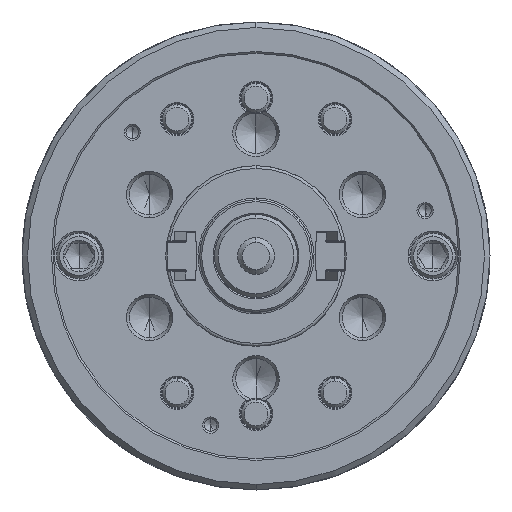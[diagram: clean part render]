
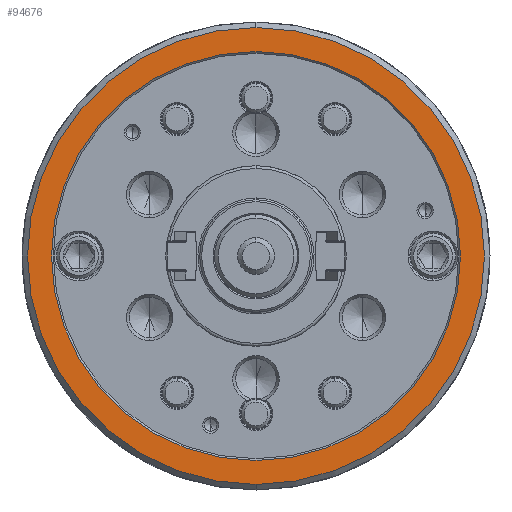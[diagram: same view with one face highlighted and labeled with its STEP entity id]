
A CAD part, left-side view. The second image highlights one B-rep face of the part: STEP entity #94676.
In plain terms, the highlighted planar face has unit normal (-1, 0, 0).
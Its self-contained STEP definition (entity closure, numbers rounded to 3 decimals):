
#10228 = CARTESIAN_POINT ( 'NONE',  ( -89., 0., -124. ) ) ;
#11208 = DIRECTION ( 'NONE',  ( 0., 0., -1. ) ) ;
#11580 = CIRCLE ( 'NONE', #32807, 111. ) ;
#12597 = CARTESIAN_POINT ( 'NONE',  ( -89., 0., 111. ) ) ;
#13041 = AXIS2_PLACEMENT_3D ( 'NONE', #25255, #72240, #25769 ) ;
#14705 = DIRECTION ( 'NONE',  ( 1., 0., 0. ) ) ;
#15111 = VERTEX_POINT ( 'NONE', #10228 ) ;
#18348 = EDGE_LOOP ( 'NONE', ( #23250, #66556 ) ) ;
#19824 = DIRECTION ( 'NONE',  ( 1., 0., 0. ) ) ;
#19886 = AXIS2_PLACEMENT_3D ( 'NONE', #95731, #96729, #73745 ) ;
#20487 = EDGE_LOOP ( 'NONE', ( #87130, #53462 ) ) ;
#23085 = DIRECTION ( 'NONE',  ( 1., 0., 0. ) ) ;
#23250 = ORIENTED_EDGE ( 'NONE', *, *, #75334, .F. ) ;
#25255 = CARTESIAN_POINT ( 'NONE',  ( -89., 0., 0. ) ) ;
#25769 = DIRECTION ( 'NONE',  ( 0., 0., -1. ) ) ;
#32807 = AXIS2_PLACEMENT_3D ( 'NONE', #78276, #23085, #85360 ) ;
#33426 = PLANE ( 'NONE',  #19886 ) ;
#41734 = EDGE_CURVE ( 'NONE', #90931, #43198, #90593, .T. ) ;
#43198 = VERTEX_POINT ( 'NONE', #12597 ) ;
#45885 = DIRECTION ( 'NONE',  ( 0., 0., -1. ) ) ;
#45924 = EDGE_CURVE ( 'NONE', #74325, #15111, #86455, .T. ) ;
#47824 = CARTESIAN_POINT ( 'NONE',  ( -89., 0., 124. ) ) ;
#50242 = FACE_BOUND ( 'NONE', #20487, .T. ) ;
#53462 = ORIENTED_EDGE ( 'NONE', *, *, #41734, .T. ) ;
#65586 = FACE_OUTER_BOUND ( 'NONE', #18348, .T. ) ;
#66556 = ORIENTED_EDGE ( 'NONE', *, *, #45924, .F. ) ;
#72240 = DIRECTION ( 'NONE',  ( 1., 0., 0. ) ) ;
#72627 = CARTESIAN_POINT ( 'NONE',  ( -89., 0., -111. ) ) ;
#73745 = DIRECTION ( 'NONE',  ( 0., 0., -1. ) ) ;
#74325 = VERTEX_POINT ( 'NONE', #47824 ) ;
#75334 = EDGE_CURVE ( 'NONE', #15111, #74325, #81023, .T. ) ;
#78276 = CARTESIAN_POINT ( 'NONE',  ( -89., 0., 0. ) ) ;
#81023 = CIRCLE ( 'NONE', #100599, 124. ) ;
#81185 = CARTESIAN_POINT ( 'NONE',  ( -89., 0., 0. ) ) ;
#83677 = CARTESIAN_POINT ( 'NONE',  ( -89., 0., 0. ) ) ;
#84086 = AXIS2_PLACEMENT_3D ( 'NONE', #83677, #14705, #45885 ) ;
#84723 = EDGE_CURVE ( 'NONE', #43198, #90931, #11580, .T. ) ;
#85360 = DIRECTION ( 'NONE',  ( 0., 0., -1. ) ) ;
#86455 = CIRCLE ( 'NONE', #13041, 124. ) ;
#87130 = ORIENTED_EDGE ( 'NONE', *, *, #84723, .T. ) ;
#90593 = CIRCLE ( 'NONE', #84086, 111. ) ;
#90931 = VERTEX_POINT ( 'NONE', #72627 ) ;
#94676 = ADVANCED_FACE ( 'NONE', ( #65586, #50242 ), #33426, .F. ) ;
#95731 = CARTESIAN_POINT ( 'NONE',  ( -89., -124., 0. ) ) ;
#96729 = DIRECTION ( 'NONE',  ( 1., 0., 0. ) ) ;
#100599 = AXIS2_PLACEMENT_3D ( 'NONE', #81185, #19824, #11208 ) ;
